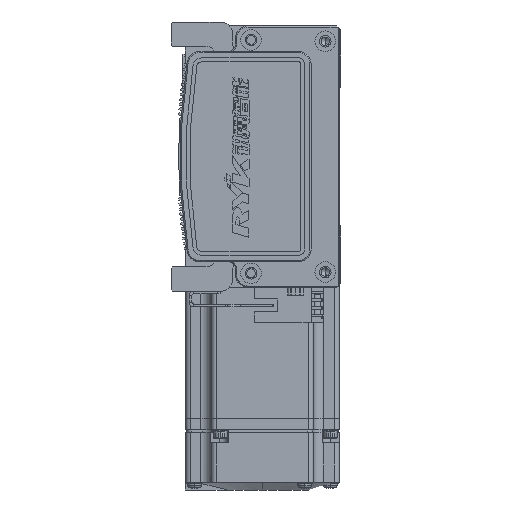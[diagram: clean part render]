
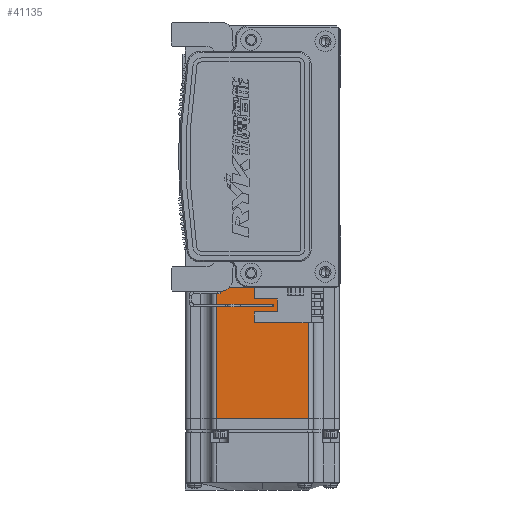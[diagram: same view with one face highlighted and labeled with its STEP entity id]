
A CAD part, left-side view. The second image highlights one B-rep face of the part: STEP entity #41135.
In plain terms, the highlighted planar face has unit normal (-1, 0, 0) as drawn and (0, 0, 1) by its records, which use the part's own axes.
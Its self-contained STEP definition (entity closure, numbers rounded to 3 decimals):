
#186 = EDGE_CURVE ( 'NONE', #38171, #26663, #28324, .T. ) ;
#593 = VECTOR ( 'NONE', #20223, 1000. ) ;
#3306 = EDGE_CURVE ( 'NONE', #38171, #48487, #39536, .T. ) ;
#8377 = EDGE_CURVE ( 'NONE', #26663, #53046, #30856, .T. ) ;
#8398 = PLANE ( 'NONE',  #30159 ) ;
#12996 = CARTESIAN_POINT ( 'NONE',  ( -70.95, -18., 30. ) ) ;
#14723 = DIRECTION ( 'NONE',  ( -1., 0., 0. ) ) ;
#16294 = CARTESIAN_POINT ( 'NONE',  ( -6.5, -18., 30. ) ) ;
#18392 = CARTESIAN_POINT ( 'NONE',  ( -7.75, 18., 30. ) ) ;
#20223 = DIRECTION ( 'NONE',  ( 0., -1., 0. ) ) ;
#22653 = ORIENTED_EDGE ( 'NONE', *, *, #3306, .T. ) ;
#22719 = ORIENTED_EDGE ( 'NONE', *, *, #24598, .T. ) ;
#22785 = CARTESIAN_POINT ( 'NONE',  ( -7.75, 0., 30. ) ) ;
#23578 = CARTESIAN_POINT ( 'NONE',  ( -6.5, -25., 30. ) ) ;
#24598 = EDGE_CURVE ( 'NONE', #48487, #53046, #61442, .T. ) ;
#25011 = VECTOR ( 'NONE', #43719, 1000. ) ;
#25560 = VECTOR ( 'NONE', #14723, 1000. ) ;
#26663 = VERTEX_POINT ( 'NONE', #63032 ) ;
#28324 = LINE ( 'NONE', #22785, #25011 ) ;
#30159 = AXIS2_PLACEMENT_3D ( 'NONE', #23578, #39688, #39908 ) ;
#30856 = LINE ( 'NONE', #16294, #34119 ) ;
#34119 = VECTOR ( 'NONE', #63221, 1000. ) ;
#38171 = VERTEX_POINT ( 'NONE', #18392 ) ;
#39536 = LINE ( 'NONE', #62094, #25560 ) ;
#39688 = DIRECTION ( 'NONE',  ( 0., 0., 1. ) ) ;
#39908 = DIRECTION ( 'NONE',  ( 1., 0., 0. ) ) ;
#40165 = CARTESIAN_POINT ( 'NONE',  ( -70.95, 18., 30. ) ) ;
#41135 = ADVANCED_FACE ( 'NONE', ( #56597 ), #8398, .T. ) ;
#41248 = ORIENTED_EDGE ( 'NONE', *, *, #8377, .F. ) ;
#43719 = DIRECTION ( 'NONE',  ( 0., -1., 0. ) ) ;
#46668 = CARTESIAN_POINT ( 'NONE',  ( -70.95, 0., 30. ) ) ;
#48487 = VERTEX_POINT ( 'NONE', #40165 ) ;
#53046 = VERTEX_POINT ( 'NONE', #12996 ) ;
#56068 = ORIENTED_EDGE ( 'NONE', *, *, #186, .F. ) ;
#56597 = FACE_OUTER_BOUND ( 'NONE', #64115, .T. ) ;
#61442 = LINE ( 'NONE', #46668, #593 ) ;
#62094 = CARTESIAN_POINT ( 'NONE',  ( -6.5, 18., 30. ) ) ;
#63032 = CARTESIAN_POINT ( 'NONE',  ( -7.75, -18., 30. ) ) ;
#63221 = DIRECTION ( 'NONE',  ( -1., 0., 0. ) ) ;
#64115 = EDGE_LOOP ( 'NONE', ( #56068, #22653, #22719, #41248 ) ) ;
